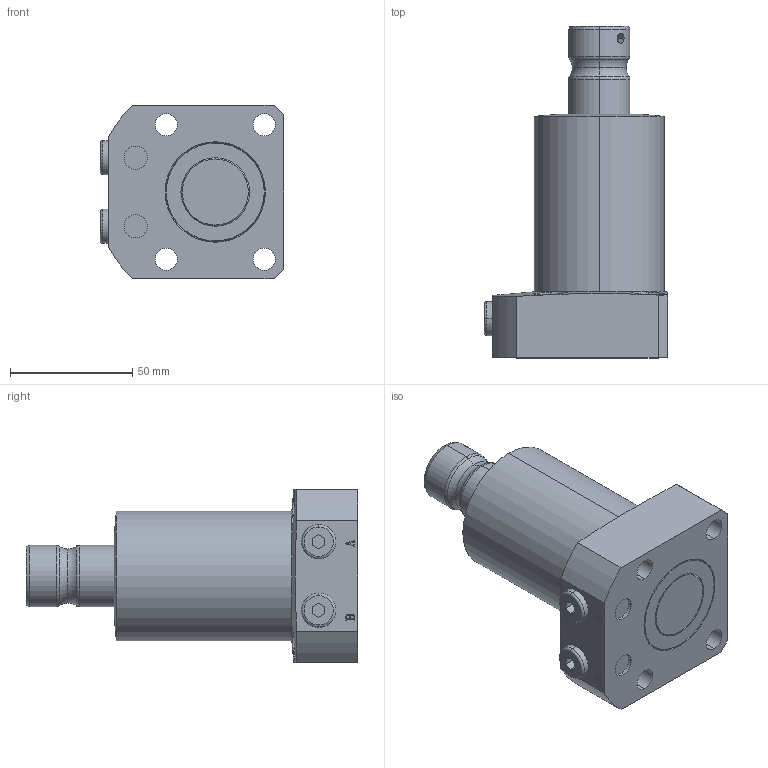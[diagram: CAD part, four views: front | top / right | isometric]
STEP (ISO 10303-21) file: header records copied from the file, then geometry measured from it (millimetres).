
FILE_DESCRIPTION (( 'STEP AP203' ), '1' );
FILE_NAME ('221601-CR.STEP', '2019-06-29T08:04:49', ( '微软用户' ), ( '微软中国' ), 'SwSTEP 2.0', 'SolidWorks 2014', '' );
FILE_SCHEMA (( 'CONFIG_CONTROL_DESIGN' ));
Length unit declared in the file: millimetre
Products named in the file (5): 葩璃 231601.04^221601-CR; 221601-CR; 葩璃 221601.02^221601-CR; 葩璃 4BN-02WD^221601-CR; 葩璃 231601.01^221601-CR
Assembly tree (5 placements, depth 2):
  221601-CR
    葩璃 221601.02^221601-CR
    葩璃 4BN-02WD^221601-CR  x2
    葩璃 231601.01^221601-CR
    葩璃 231601.04^221601-CR
Bounding box: 75 x 135.5 x 71 mm (x, y, z)
Volume: 332351.7 mm3; surface area: 44404.5 mm2
Topology: 5 solids, 5 shells, 193 faces, 439 edges, 278 vertices
Faces by surface type: plane 83, cylinder 54, cone 20, torus 20, bspline 16
Entity records: 6488 total; most frequent: CARTESIAN_POINT 2168, DIRECTION 775, ORIENTED_EDGE 770, EDGE_CURVE 385, AXIS2_PLACEMENT_3D 283, VERTEX_POINT 246, VECTOR 209, LINE 209
